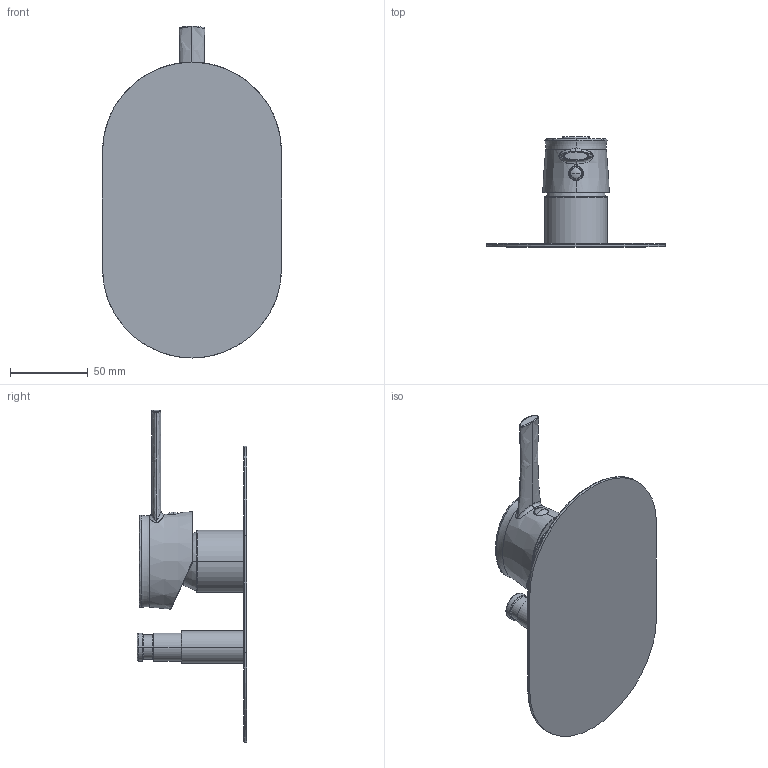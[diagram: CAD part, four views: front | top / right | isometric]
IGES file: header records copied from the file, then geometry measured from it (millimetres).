
Start section:  PTC IGES file: 58010.igs
Global section: file name: 58010.igs; native system: Creo Parametric by PTC Inc.; preprocessor: 2022014; author: carloff; organization: Unknown; date: 20260303.103945; units: millimetre
Bounding box: 115 x 70.6 x 213.22 mm (x, y, z)
Surface area: 65037.9 mm2 (no closed solid volume)
Topology: 0 solids, 0 shells, 272 faces, 1332 edges, 1330 vertices
Faces by surface type: bspline 145, revolution 127
